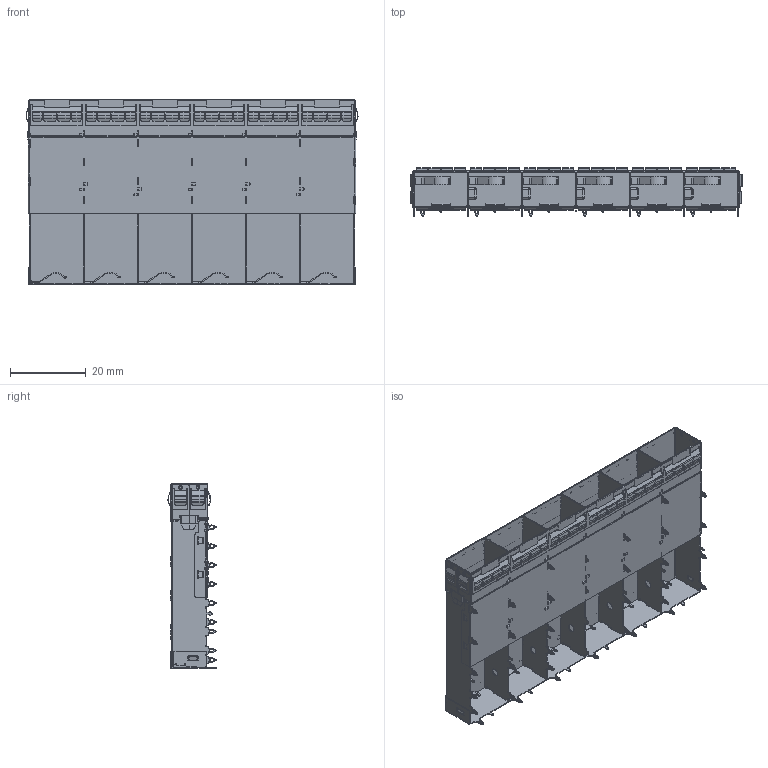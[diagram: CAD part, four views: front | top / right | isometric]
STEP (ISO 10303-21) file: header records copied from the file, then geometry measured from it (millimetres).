
FILE_DESCRIPTION (( 'STEP AP203' ), '1' );
FILE_NAME ('SFP+ 1X6拸堎挴3D.STEP', '2024-02-28T02:13:30', ( '' ), ( '' ), 'SwSTEP 2.0', 'SolidWorks 2018', '' );
FILE_SCHEMA (( 'CONFIG_CONTROL_DESIGN' ));
Products named in the file (1): SFP+ 1X6拸堎挴3D
Bounding box: 87.56 x 12.68 x 48.75 mm (x, y, z)
Volume: 3003.7 mm3; surface area: 24870.2 mm2
Topology: 1 solids, 1 shells, 5614 faces, 15009 edges, 9282 vertices
Faces by surface type: plane 3131, cylinder 2338, bspline 113, torus 30, cone 2
Entity records: 180479 total; most frequent: CARTESIAN_POINT 37287, DIRECTION 30395, ORIENTED_EDGE 30018, EDGE_CURVE 15009, AXIS2_PLACEMENT_3D 10238, LINE 9919, VECTOR 9919, VERTEX_POINT 9282
